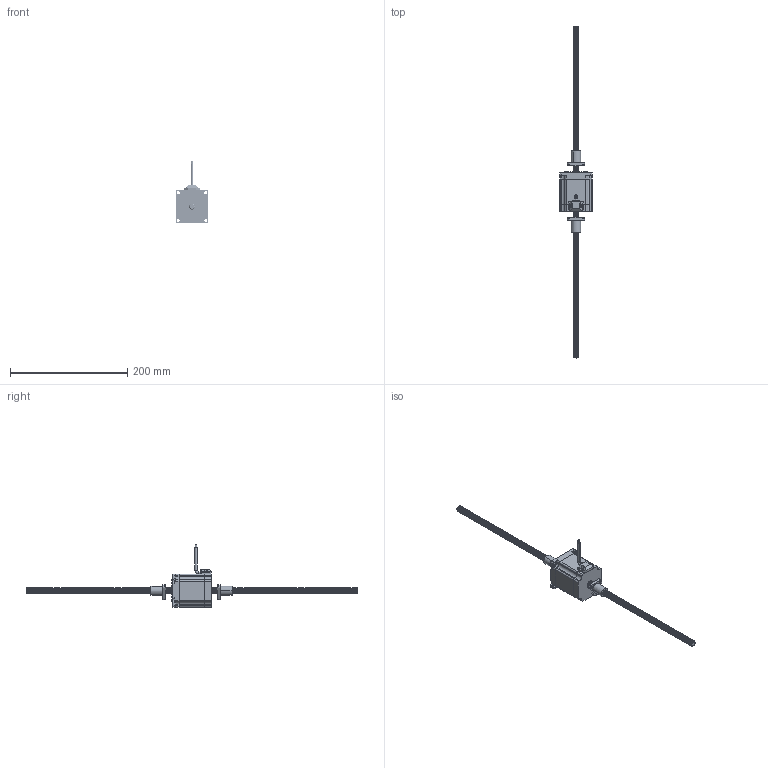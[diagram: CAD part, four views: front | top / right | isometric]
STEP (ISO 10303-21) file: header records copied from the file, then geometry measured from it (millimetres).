
FILE_DESCRIPTION (( 'STEP AP214' ), '1' );
FILE_NAME ('SPS57E265-T1004-250LR-2.STEP', '2024-06-26T09:44:51', ( 'MM' ), ( 'Microsoft' ), 'SwSTEP 2.0', 'SolidWorks 2024', '' );
FILE_SCHEMA (( 'AUTOMOTIVE_DESIGN' ));
Length unit declared in the file: millimetre
Products named in the file (1): SPS57E265-T1004-250LR-2
Bounding box: 56.2 x 566 x 106.2 mm (x, y, z)
Volume: 233038.2 mm3; surface area: 56120.9 mm2
Topology: 5 solids, 5 shells, 539 faces, 1533 edges, 1015 vertices
Faces by surface type: cylinder 416, plane 102, cone 14, bspline 5, torus 2
Entity records: 54753 total; most frequent: CARTESIAN_POINT 41845, ORIENTED_EDGE 3066, DIRECTION 2278, EDGE_CURVE 1533, VERTEX_POINT 1015, AXIS2_PLACEMENT_3D 810, LINE 658, VECTOR 658
